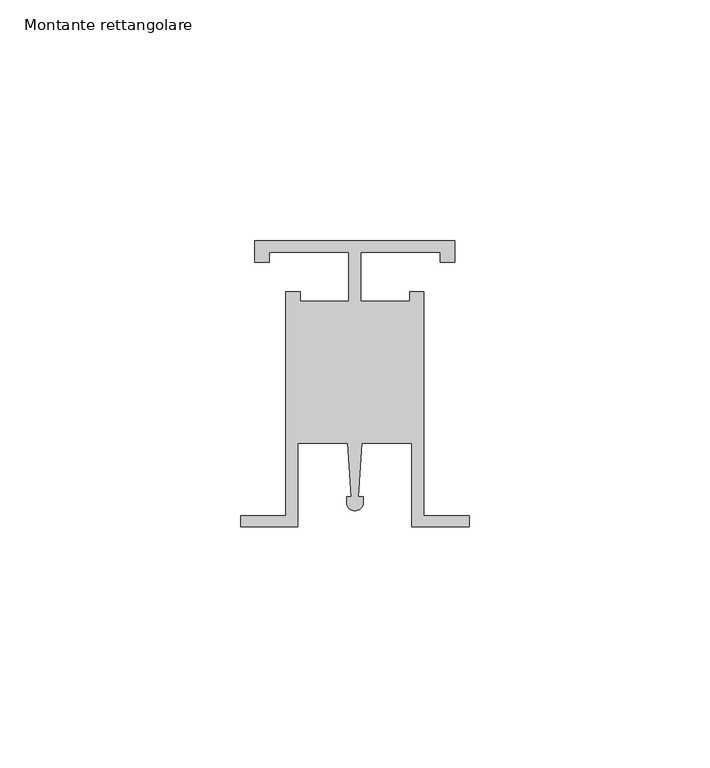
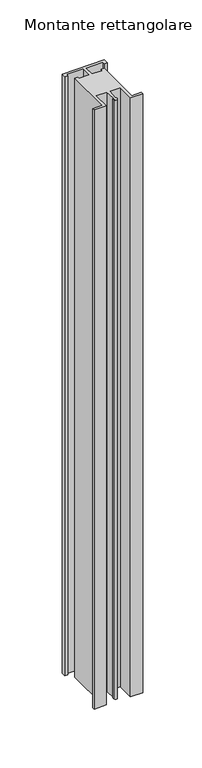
"""IFC4 building model written with IfcOpenShell, lengths in millimetres: member geometry, Montante rettangolare : Verde Profilo's Uprights."""

from ifc_helpers import new_model, si_unit, point, frame, frame_2d, origin, place, context, project, spatial, polyline, circle_curve, trimmed, segment, composite_curve, outline, extrude, source, transform, mapped, element, save


def montante_rettangolare_b5d15ad1(model_context):
    return source(origin(), model_context, "Body", "SweptSolid", [
        extrude(outline(composite_curve([segment(polyline([(-3.0, 0.0), (-3.0, -4.4643434), (-5.9763281, -4.4643434), (-5.9763281, -2.4801246), (-22.5192241, -2.4801246), (-22.5192241, -12.5992217), (-12.4008018, -12.5992217), (-12.4008018, -10.6150029), (-9.4244736, -10.6150029), (-9.4244736, -57.1992491), (0.0, -57.1992491), (0.0, -59.5229914), (-11.9045983, -59.5229914), (-11.9045983, -42.1200913), (-22.2878429, -42.1200913), (-23.0155567, -53.2310496), (-22.0219337, -53.2310496), (-22.0219337, -54.4070013)]), True, "CONTINUOUS"), segment(trimmed(circle_curve(frame_2d((-23.7595941, -54.4070013)), 1.7376604), [point((-22.0219337, -54.4070013))], [point((-25.4972545, -54.4070013))], False, "CARTESIAN"), True, "CONTINUOUS"), segment(polyline([(-25.4972545, -54.4070013), (-25.4972545, -53.2310496), (-24.5036314, -53.2310496), (-25.2313452, -42.1200913), (-35.6145898, -42.1200913), (-35.6145898, -59.5229914), (-47.5191881, -59.5229914), (-47.5191881, -57.1992491), (-38.0947145, -57.1992491), (-38.0947145, -10.6150029), (-35.1183863, -10.6150029), (-35.1183863, -12.5992217), (-24.999964, -12.5992217), (-24.999964, -2.4801246), (-41.54286, -2.4801246), (-41.54286, -4.4643434), (-44.5191881, -4.4643434), (-44.5191881, 0.0), (-3.0, 0.0)]), True, "CONTINUOUS")], self_intersect=False)), frame((0.0, 0.0, -620.0), z_axis=(0.0, 0.0, 1.0), x_axis=(1.0, 0.0, 0.0)), (0.0, 0.0, 1.0), 620.0),
    ])


if __name__ == "__main__":
    model = new_model("IFC4")
    model_context = context("Model", 3, world=origin())
    ifc_project = project(units=[si_unit("LENGTHUNIT", "METRE", prefix="MILLI")], contexts=[model_context])
    site = spatial("IfcSite", under=ifc_project)
    building = spatial("IfcBuilding", under=site)
    placement = place(None, origin())
    montante_rettangolare_shape = montante_rettangolare_b5d15ad1(model_context)
    element("IfcMember", 1, ObjectType="Montante rettangolare : Verde Profilo's Uprights", at=placement, inside=building, context=model_context, shape_type="MappedRepresentation", body=[
        mapped(montante_rettangolare_shape, transform((0.0, 0.0, 0.0), x_axis=(1.0, 0.0, 0.0), y_axis=(0.0, 1.0, 0.0), z_axis=(0.0, 0.0, 1.0))),
    ])
    save(model, "model.ifc")
